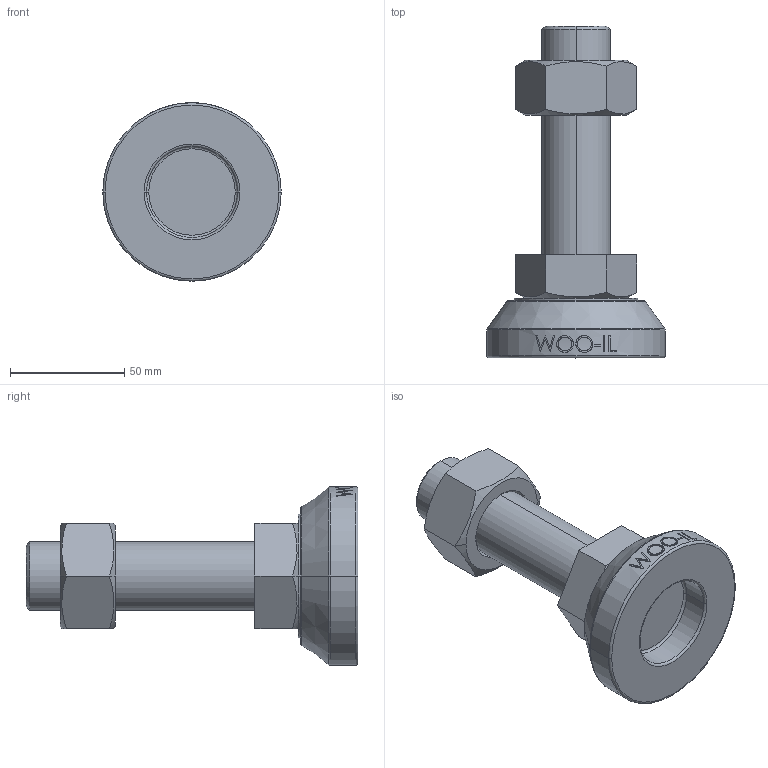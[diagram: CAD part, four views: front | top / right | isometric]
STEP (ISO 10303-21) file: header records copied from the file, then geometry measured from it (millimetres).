
FILE_DESCRIPTION (( 'STEP AP214' ), '1' );
FILE_NAME ('MF78-M30-100.step', '2021-02-03T08:22:47', ( '' ), ( '' ), 'SwSTEP 2.0', 'SolidWorks 2019', '' );
FILE_SCHEMA (( 'AUTOMOTIVE_DESIGN' ));
Length unit declared in the file: millimetre
Products named in the file (2): MF78-M30-100
Bounding box: 78 x 145 x 78 mm (x, y, z)
Volume: 225015.9 mm3; surface area: 39348.4 mm2
Topology: 3 solids, 3 shells, 106 faces, 243 edges, 154 vertices
Faces by surface type: plane 48, cylinder 18, bspline 16, cone 14, torus 10
Entity records: 4556 total; most frequent: CARTESIAN_POINT 2213, ORIENTED_EDGE 486, DIRECTION 439, EDGE_CURVE 243, AXIS2_PLACEMENT_3D 170, VERTEX_POINT 154, EDGE_LOOP 119, ADVANCED_FACE 106
